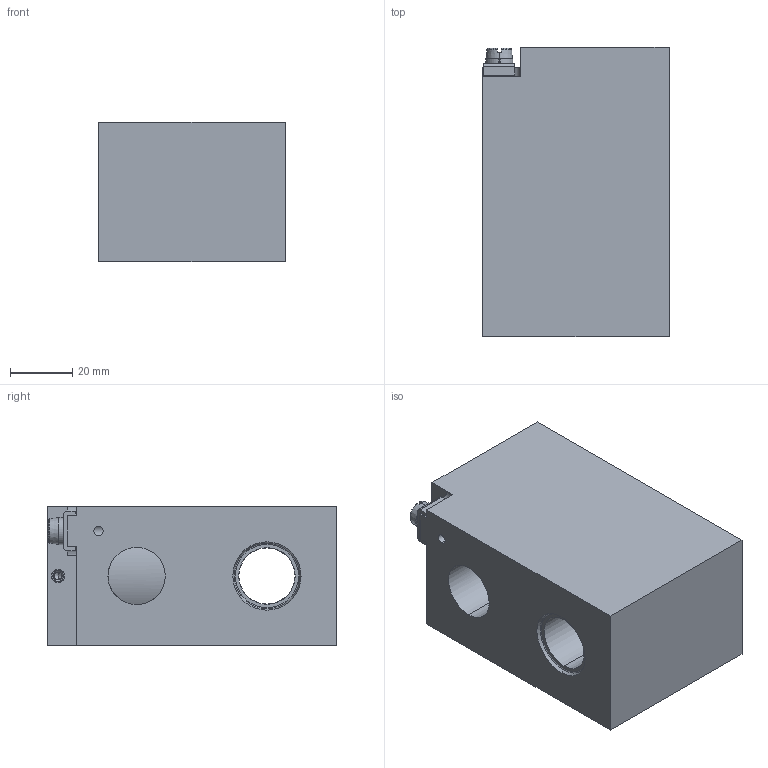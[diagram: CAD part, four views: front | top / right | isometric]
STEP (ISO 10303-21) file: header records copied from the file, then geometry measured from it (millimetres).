
FILE_DESCRIPTION (( 'STEP AP214' ), '1' );
FILE_NAME ('MKY45_18x60.STEP', '2015-07-02T08:46:16', ( '' ), ( '' ), 'SwSTEP 2.0', 'SolidWorks 2014', '' );
FILE_SCHEMA (( 'AUTOMOTIVE_DESIGN' ));
Length unit declared in the file: millimetre
Products named in the file (2): MKY45_18x60
Bounding box: 60 x 93.3 x 45 mm (x, y, z)
Volume: 226008.9 mm3; surface area: 31861.9 mm2
Topology: 5 solids, 5 shells, 163 faces, 406 edges, 263 vertices
Faces by surface type: plane 98, cylinder 41, cone 18, torus 6
Entity records: 6948 total; most frequent: CARTESIAN_POINT 1160, DIRECTION 822, ORIENTED_EDGE 800, EDGE_CURVE 400, AXIS2_PLACEMENT_3D 296, VERTEX_POINT 261, VECTOR 230, LINE 230
